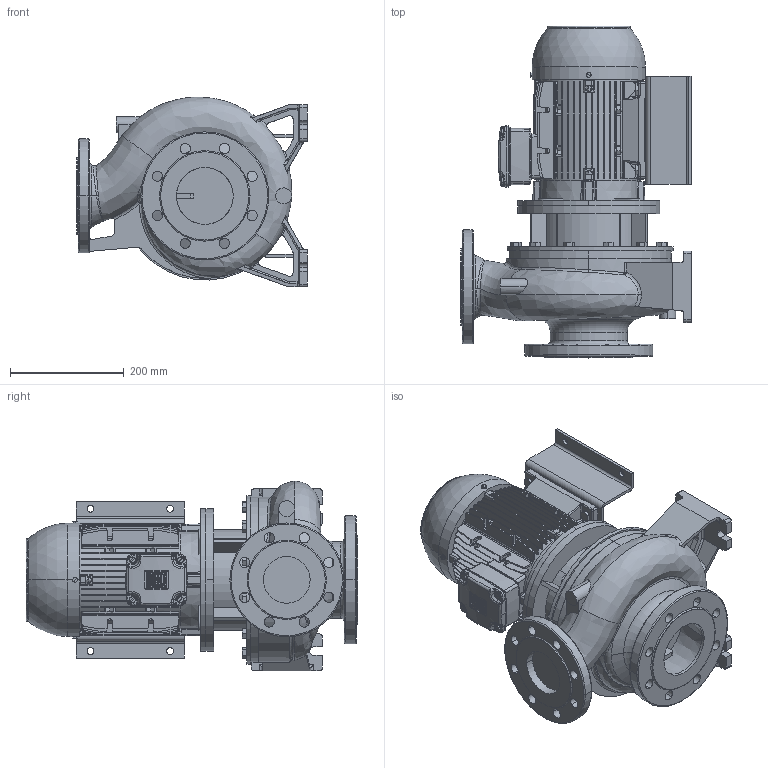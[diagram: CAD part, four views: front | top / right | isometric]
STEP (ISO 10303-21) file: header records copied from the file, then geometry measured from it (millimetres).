
FILE_DESCRIPTION (( 'STEP AP214' ), '1' );
FILE_NAME ('3LS4 80-160_2.2_(100L)_W21.STEP', '2026-10-05T01:37:22', ( '' ), ( '' ), 'SwSTEP 2.0', 'SolidWorks 2024', '' );
FILE_SCHEMA (( 'AUTOMOTIVE_DESIGN' ));
Length unit declared in the file: inch
Products named in the file (3): 3LS4 80-160_2.2_(100L)_W21; 100L ALIE3_W21T_B35; 3SF4_80-160_2_2
Assembly tree (2 placements, depth 2):
  3LS4 80-160_2.2_(100L)_W21
    3SF4_80-160_2_2
    100L ALIE3_W21T_B35
Bounding box: 405 x 583.05 x 333.73 mm (x, y, z)
Volume: 20040482.7 mm3; surface area: 1674703.1 mm2
Topology: 8 solids, 8 shells, 3201 faces, 8372 edges, 5401 vertices
Faces by surface type: plane 2083, cylinder 620, bspline 191, torus 158, cone 119, sphere 30
Entity records: 151659 total; most frequent: CARTESIAN_POINT 74790, ORIENTED_EDGE 16692, DIRECTION 14704, EDGE_CURVE 8346, LINE 5640, VECTOR 5640, VERTEX_POINT 5393, AXIS2_PLACEMENT_3D 4532
